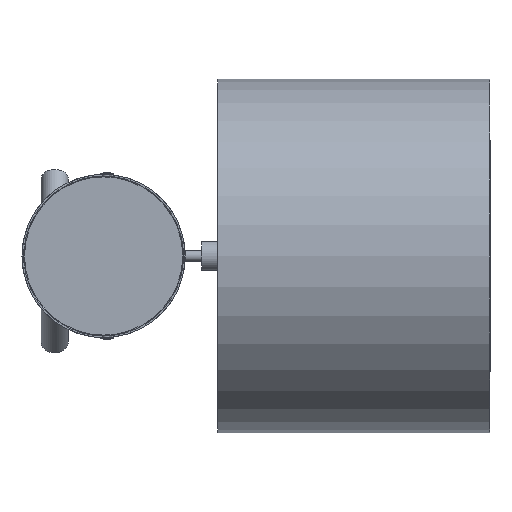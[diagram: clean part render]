
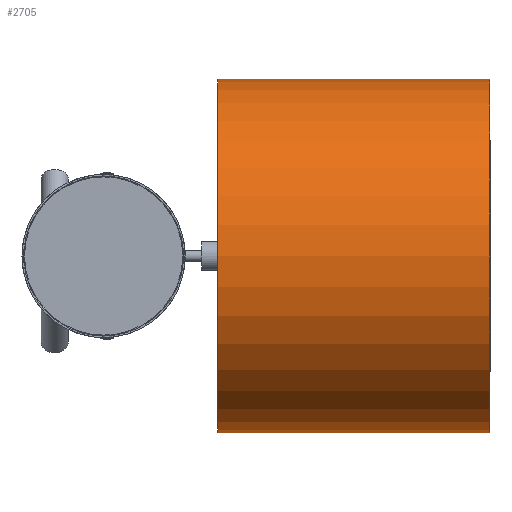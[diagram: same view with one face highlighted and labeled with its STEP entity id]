
A CAD part, left-side view. The second image highlights one B-rep face of the part: STEP entity #2705.
In plain terms, the highlighted cylindrical face has radius 65 mm (diameter 130 mm), a full revolution.
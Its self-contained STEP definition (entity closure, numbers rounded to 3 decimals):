
#481=FACE_OUTER_BOUND('',#683,.T.);
#683=EDGE_LOOP('',(#2378,#2379,#2380,#2381));
#837=LINE('',#10783,#967);
#967=VECTOR('',#3799,65.);
#1089=CIRCLE('',#3070,65.);
#1090=CIRCLE('',#3071,65.);
#1339=VERTEX_POINT('',#10780);
#1340=VERTEX_POINT('',#10782);
#1692=EDGE_CURVE('',#1339,#1339,#1089,.T.);
#1693=EDGE_CURVE('',#1339,#1340,#837,.T.);
#1694=EDGE_CURVE('',#1340,#1340,#1090,.T.);
#2378=ORIENTED_EDGE('',*,*,#1692,.F.);
#2379=ORIENTED_EDGE('',*,*,#1693,.T.);
#2380=ORIENTED_EDGE('',*,*,#1694,.F.);
#2381=ORIENTED_EDGE('',*,*,#1693,.F.);
#2539=CYLINDRICAL_SURFACE('',#3069,65.);
#2705=ADVANCED_FACE('',(#481),#2539,.T.);
#3069=AXIS2_PLACEMENT_3D('',#10779,#3795,#3796);
#3070=AXIS2_PLACEMENT_3D('',#10781,#3797,#3798);
#3071=AXIS2_PLACEMENT_3D('',#10784,#3800,#3801);
#3795=DIRECTION('center_axis',(0.,-1.,0.));
#3796=DIRECTION('ref_axis',(1.,0.,0.));
#3797=DIRECTION('center_axis',(0.,-1.,0.));
#3798=DIRECTION('ref_axis',(1.,0.,0.));
#3799=DIRECTION('',(0.,1.,0.));
#3800=DIRECTION('center_axis',(0.,1.,0.));
#3801=DIRECTION('ref_axis',(1.,0.,0.));
#10779=CARTESIAN_POINT('Origin',(123.,-60.,0.));
#10780=CARTESIAN_POINT('',(58.,-160.,0.));
#10781=CARTESIAN_POINT('Origin',(123.,-160.,0.));
#10782=CARTESIAN_POINT('',(58.,-60.,0.));
#10783=CARTESIAN_POINT('',(58.,-60.,0.));
#10784=CARTESIAN_POINT('Origin',(123.,-60.,0.));
